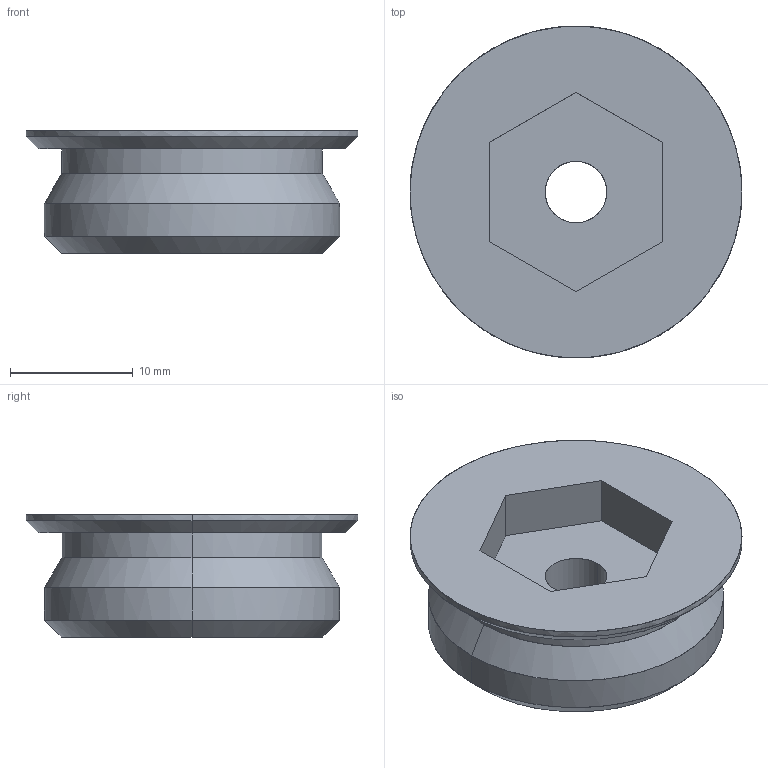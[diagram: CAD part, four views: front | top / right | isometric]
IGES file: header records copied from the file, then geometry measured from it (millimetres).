
Global section: file name: E:\UnigraphicsGraphicData\MISUMI_PRESS-PARTS\IGES\3d_mswzsh24-10_00504_r00.igs; native system: NX V5.0; preprocessor: UGS NX IGES V5.0; author: MISUMI; date: 20110105.161532; units: millimetre
Bounding box: 27 x 27 x 10 mm (x, y, z)
Surface area: 2146.2 mm2 (no closed solid volume)
Topology: 0 solids, 0 shells, 24 faces, 148 edges, 148 vertices
Faces by surface type: bspline 24
